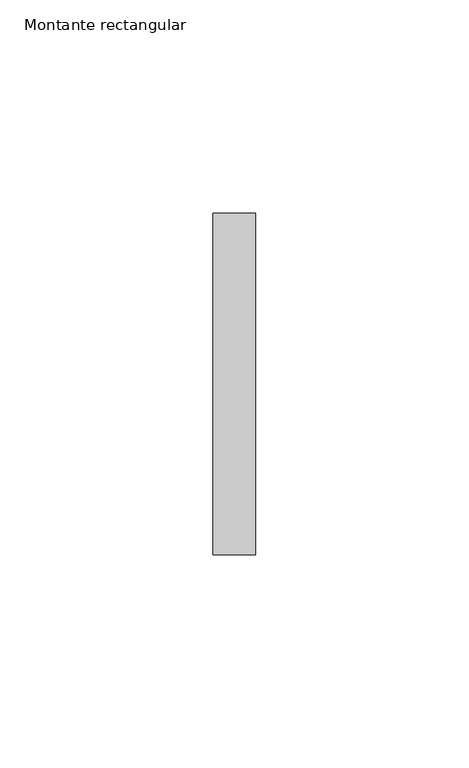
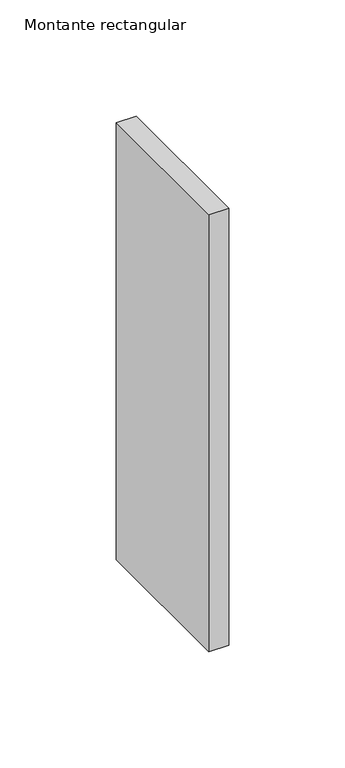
"""IFC4 building model written with IfcOpenShell, lengths in millimetres: member geometry, Montante rectangular : Junta de paves."""

from ifc_helpers import new_model, si_unit, frame, origin, place, context, project, spatial, polyline, outline, extrude, source, transform, mapped, element, save


def montante_rectangular_20dad572(model_context):
    return source(origin(), model_context, "Body", "SweptSolid", [
        extrude(outline(polyline([(0.0, 40.0), (0.0, -40.0), (-10.0, -40.0), (-10.0, 40.0), (0.0, 40.0)])), frame((0.0, 0.0, -230.0), z_axis=(0.0, 0.0, 1.0), x_axis=(1.0, 0.0, 0.0)), (0.0, 0.0, 1.0), 230.0),
    ])


if __name__ == "__main__":
    model = new_model("IFC4")
    model_context = context("Model", 3, world=origin())
    ifc_project = project(units=[si_unit("LENGTHUNIT", "METRE", prefix="MILLI")], contexts=[model_context])
    site = spatial("IfcSite", under=ifc_project)
    building = spatial("IfcBuilding", under=site)
    placement = place(None, origin())
    montante_rectangular_shape = montante_rectangular_20dad572(model_context)
    element("IfcMember", 1, ObjectType="Montante rectangular : Junta de paves", at=placement, inside=building, context=model_context, shape_type="MappedRepresentation", body=[
        mapped(montante_rectangular_shape, transform((0.0, 0.0, 0.0), x_axis=(1.0, 0.0, 0.0), y_axis=(0.0, 1.0, 0.0), z_axis=(0.0, 0.0, 1.0))),
    ])
    save(model, "model.ifc")
